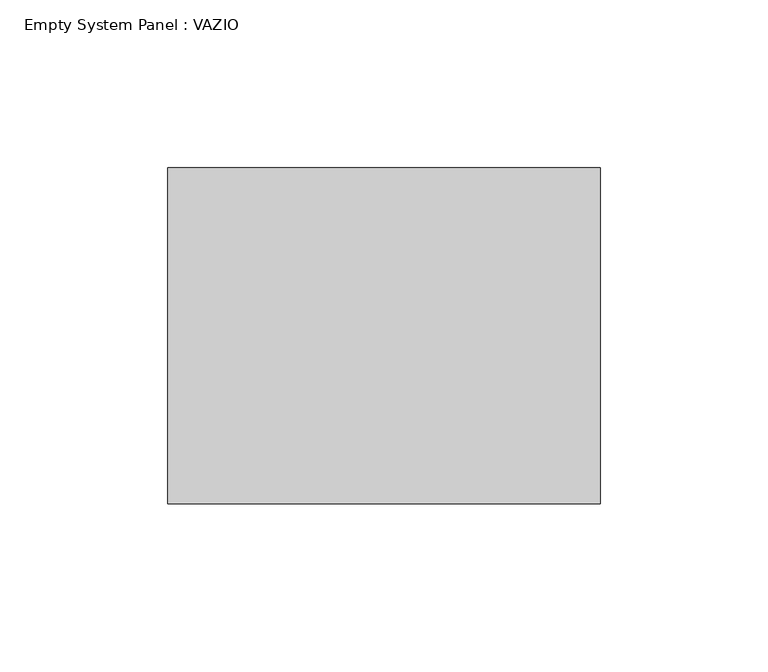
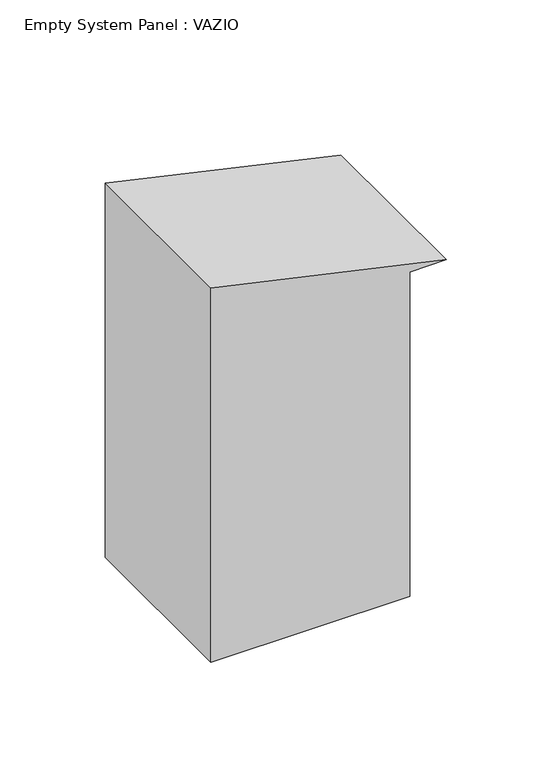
"""IFC4 building model written with IfcOpenShell, lengths in millimetres: plate geometry, Empty System Panel : VAZIO."""

import ifcopenshell
import ifcopenshell.guid

model = None  # the IFC model being written
_history = None  # IfcOwnerHistory: only IFC2X3 demands one
_inside = {}  # id of a spatial element -> (the spatial element, [elements in it])
_under = {}  # id of a project, library or spatial element -> (it, [spatial elements below it])
_declared = {}  # id of a project -> (the project, [libraries it declares])
_typed = {}  # id of a type object -> (the type object, [elements of that type])
_made_of = {}  # id of a material, layer set ... -> (it, [elements and type objects made of it])


def new_model(schema):
    """Start an empty IFC model of exactly this schema.

    Asked for "IFC4X3", IfcOpenShell would pick the latest addendum, in which some entities
    have other attributes; the version numbers below select the first issue.
    IFC2X3 requires an IfcOwnerHistory on every rooted entity: one is made here for all.
    """
    global model, _history
    if schema == "IFC4X3":
        model = ifcopenshell.file(schema_version=(4, 3, 0, 0))
    else:
        model = ifcopenshell.file(schema=schema)
    _inside.clear()
    _under.clear()
    _declared.clear()
    _typed.clear()
    _made_of.clear()
    _history = None
    if model.schema == "IFC2X3":
        org = make("IfcOrganization", Name="unknown")
        user = make(
            "IfcPersonAndOrganization",
            ThePerson=make("IfcPerson", FamilyName="unknown"),
            TheOrganization=org,
        )
        app = make(
            "IfcApplication",
            ApplicationDeveloper=org,
            Version="unknown",
            ApplicationFullName="unknown",
            ApplicationIdentifier="unknown",
        )
        _history = make(
            "IfcOwnerHistory",
            OwningUser=user,
            OwningApplication=app,
            ChangeAction="ADDED",
            CreationDate=0,
        )
    return model


def make(cls, **values):
    """One entity of the class cls with the attributes given. An attribute that is None is left unset."""
    return model.create_entity(
        cls, **{name: value for name, value in values.items() if value is not None}
    )


def rooted(cls, **values):
    """An entity with a GlobalId (a new one), such as an element, a storey or a relation."""
    return make(cls, GlobalId=ifcopenshell.guid.new(), OwnerHistory=_history, **values)


def si_unit(unit_type, name, prefix=None):
    """IfcSIUnit, for example si_unit("LENGTHUNIT", "METRE", prefix="MILLI")."""
    return make("IfcSIUnit", UnitType=unit_type, Prefix=prefix, Name=name)


def assignment(units):
    """IfcUnitAssignment: the units of a project."""
    return None if units is None else make("IfcUnitAssignment", Units=units)


def point(xyz):
    """IfcCartesianPoint."""
    return None if xyz is None else make("IfcCartesianPoint", Coordinates=xyz)


def direction(xyz):
    """IfcDirection."""
    return None if xyz is None else make("IfcDirection", DirectionRatios=xyz)


def frame(location, z_axis=None, x_axis=None):
    """IfcAxis2Placement3D, a coordinate frame: its origin and axes. An axis left out is left unset."""
    return make(
        "IfcAxis2Placement3D",
        Location=point(location),
        Axis=direction(z_axis),
        RefDirection=direction(x_axis),
    )


def frame_2d(location, x_axis=None):
    """IfcAxis2Placement2D, a coordinate frame in the plane: its origin and x axis."""
    return make(
        "IfcAxis2Placement2D", Location=point(location), RefDirection=direction(x_axis)
    )


def origin():
    """The frame at (0, 0, 0) with its axes left unset."""
    return frame((0.0, 0.0, 0.0))


def place(relative_to, where):
    """IfcLocalPlacement: puts the frame where relative to a parent placement (None: the world)."""
    return make(
        "IfcLocalPlacement", PlacementRelTo=relative_to, RelativePlacement=where
    )


def context(
    kind, dimensions, precision=None, world=None, true_north=None, identifier=None
):
    """IfcGeometricRepresentationContext, for example the 3D "Model" context."""
    return make(
        "IfcGeometricRepresentationContext",
        ContextIdentifier=identifier,
        ContextType=kind,
        CoordinateSpaceDimension=dimensions,
        Precision=precision,
        WorldCoordinateSystem=world,
        TrueNorth=true_north,
    )


def project(units=None, contexts=None):
    """IfcProject with its units and contexts."""
    return rooted(
        "IfcProject",
        Name="project",
        RepresentationContexts=contexts,
        UnitsInContext=assignment(units),
    )


def spatial(cls, under=None, at=None, **own):
    """A site, building, storey or space (cls), placed at a placement, below another one or the project."""
    s = rooted(cls, ObjectPlacement=at, **own)
    if under is not None:
        _under.setdefault(under.id(), (under, []))[1].append(s)
    return s


def polyline(points):
    """IfcPolyline through the points."""
    return make("IfcPolyline", Points=[point(p) for p in points])


def circle_curve(where, radius):
    """IfcCircle in the frame where."""
    return make("IfcCircle", Position=where, Radius=radius)


def trimmed(basis, trim1, trim2, sense, master):
    """IfcTrimmedCurve: the piece of a basis curve between two trims."""
    return make(
        "IfcTrimmedCurve",
        BasisCurve=basis,
        Trim1=trim1,
        Trim2=trim2,
        SenseAgreement=sense,
        MasterRepresentation=master,
    )


def segment(curve, same_sense, transition):
    """IfcCompositeCurveSegment."""
    return make(
        "IfcCompositeCurveSegment",
        Transition=transition,
        SameSense=same_sense,
        ParentCurve=curve,
    )


def composite_curve(segments, self_intersect=None):
    """IfcCompositeCurve: segments joined end to end."""
    return make("IfcCompositeCurve", Segments=segments, SelfIntersect=self_intersect)


def outline(outer, holes=None, kind="AREA"):
    """IfcArbitraryClosedProfileDef: a profile drawn as a closed curve; with holes, ...WithVoids."""
    if holes is None:
        return make("IfcArbitraryClosedProfileDef", ProfileType=kind, OuterCurve=outer)
    return make(
        "IfcArbitraryProfileDefWithVoids",
        ProfileType=kind,
        OuterCurve=outer,
        InnerCurves=holes,
    )


def extrude(swept, where, along, depth):
    """IfcExtrudedAreaSolid: the profile swept, set in the frame where, extruded along a direction by depth."""
    return make(
        "IfcExtrudedAreaSolid",
        SweptArea=swept,
        Position=where,
        ExtrudedDirection=direction(along),
        Depth=depth,
    )


def shape(context_of_items, identifier, shape_type, items):
    """IfcShapeRepresentation: the items that make up one representation, for example the "Body"."""
    return make(
        "IfcShapeRepresentation",
        ContextOfItems=context_of_items,
        RepresentationIdentifier=identifier,
        RepresentationType=shape_type,
        Items=items,
    )


def source(mapping_origin, context_of_items, identifier, shape_type, items):
    """IfcRepresentationMap: a shape defined once, which mapped items show again and again."""
    return make(
        "IfcRepresentationMap",
        MappingOrigin=mapping_origin,
        MappedRepresentation=shape(context_of_items, identifier, shape_type, items),
    )


def transform(
    local_origin,
    x_axis=None,
    y_axis=None,
    z_axis=None,
    scale=None,
    scale2=None,
    scale3=None,
    uniform=True,
):
    """IfcCartesianTransformationOperator3D, or its non-uniform kind. x_axis, y_axis, z_axis: its Axis1, 2, 3."""
    if uniform:
        return make(
            "IfcCartesianTransformationOperator3D",
            Axis1=direction(x_axis),
            Axis2=direction(y_axis),
            LocalOrigin=point(local_origin),
            Scale=scale,
            Axis3=direction(z_axis),
        )
    return make(
        "IfcCartesianTransformationOperator3DnonUniform",
        Axis1=direction(x_axis),
        Axis2=direction(y_axis),
        LocalOrigin=point(local_origin),
        Scale=scale,
        Axis3=direction(z_axis),
        Scale2=scale2,
        Scale3=scale3,
    )


def mapped(mapping_source, mapping_target):
    """IfcMappedItem: shows the shape of a source again, moved by a transform."""
    return make(
        "IfcMappedItem", MappingSource=mapping_source, MappingTarget=mapping_target
    )


def made_of(thing, what):
    """Note that an element or type object is made of a material, layer set ...; save() writes the relation."""
    if what is not None:
        _made_of.setdefault(what.id(), (what, []))[1].append(thing)
    return thing


def element(
    cls,
    number,
    at=None,
    inside=None,
    cuts=None,
    type_object=None,
    material=None,
    context=None,
    identifier="Body",
    shape_type=None,
    held_by="IfcProductDefinitionShape",
    body=None,
    shapes=None,
    **own,
):
    """One element of the class cls, such as IfcWall. Its Tag is "e" and its number.

    at: its placement. inside: the storey or other place that contains it. cuts: it is an
    opening in that element (IfcRelVoidsElement). A single representation is given by context,
    identifier, shape_type and body (its items); several are given by shapes. held_by: the class
    of the entity that holds the representations. save() writes the other relations.
    """
    e = rooted(cls, Tag="e%d" % number, ObjectPlacement=at, **own)
    if body is not None:
        shapes = [shape(context, identifier, shape_type, body)]
    if shapes is not None:
        e.Representation = make(held_by, Representations=shapes)
    if inside is not None:
        _inside.setdefault(inside.id(), (inside, []))[1].append(e)
    if cuts is not None:
        rooted(
            "IfcRelVoidsElement", RelatingBuildingElement=cuts, RelatedOpeningElement=e
        )
    if type_object is not None:
        _typed.setdefault(type_object.id(), (type_object, []))[1].append(e)
    return made_of(e, material)


def aggregate(whole, parts):
    """IfcRelAggregates: a whole, such as a stair, and the parts it consists of."""
    return rooted("IfcRelAggregates", RelatingObject=whole, RelatedObjects=parts)


def save(model, path):
    """Write the relations noted so far, then the file.

    IfcRelAggregates (storeys below a building ...), IfcRelContainedInSpatialStructure (elements
    in a storey), IfcRelDefinesByType, IfcRelAssociatesMaterial and IfcRelDeclares: one each for
    every whole, place, type object, material and project.
    """
    for whole, parts in _under.values():
        aggregate(whole, parts)
    for where, things in _inside.values():
        rooted(
            "IfcRelContainedInSpatialStructure",
            RelatedElements=things,
            RelatingStructure=where,
        )
    for kind, things in _typed.values():
        rooted("IfcRelDefinesByType", RelatedObjects=things, RelatingType=kind)
    for what, things in _made_of.values():
        rooted("IfcRelAssociatesMaterial", RelatedObjects=things, RelatingMaterial=what)
    for by, libraries in _declared.values():
        rooted("IfcRelDeclares", RelatingContext=by, RelatedDefinitions=libraries)
    model.write(path)


def empty_system_panel_vazio_b9b9ac80(model_context):
    return source(origin(), model_context, "Body", "SweptSolid", [
        extrude(outline(composite_curve([segment(polyline([(0.0, -64.3902439), (0.0, 44.3902439), (187.8940617, 44.3902439), (187.8940617, 64.3902439)]), True, "CONTINUOUS"), segment(trimmed(circle_curve(frame_2d((-2933.8559746, -699.5121951)), 3213.8559746), [point((187.8940617, 64.3902439))], [point((216.6186456, -64.3902439))], False, "CARTESIAN"), True, "CONTINUOUS"), segment(polyline([(216.6186456, -64.3902439), (0.0, -64.3902439)]), True, "CONTINUOUS")], self_intersect=False)), frame((0.0, -50.0, 0.0), z_axis=(0.0, 1.0, 0.0), x_axis=(0.0, 0.0, 1.0)), (0.0, 0.0, 1.0), 100.0),
    ])


if __name__ == "__main__":
    model = new_model("IFC4")
    model_context = context("Model", 3, world=origin())
    ifc_project = project(units=[si_unit("LENGTHUNIT", "METRE", prefix="MILLI")], contexts=[model_context])
    site = spatial("IfcSite", under=ifc_project)
    building = spatial("IfcBuilding", under=site)
    placement = place(None, origin())
    empty_system_panel_vazio_shape = empty_system_panel_vazio_b9b9ac80(model_context)
    element("IfcPlate", 1, ObjectType="Empty System Panel : VAZIO", at=placement, inside=building, context=model_context, shape_type="MappedRepresentation", body=[
        mapped(empty_system_panel_vazio_shape, transform((0.0, 0.0, 0.0), x_axis=(1.0, 0.0, 0.0), y_axis=(0.0, 1.0, 0.0), z_axis=(0.0, 0.0, 1.0))),
    ])
    save(model, "model.ifc")
